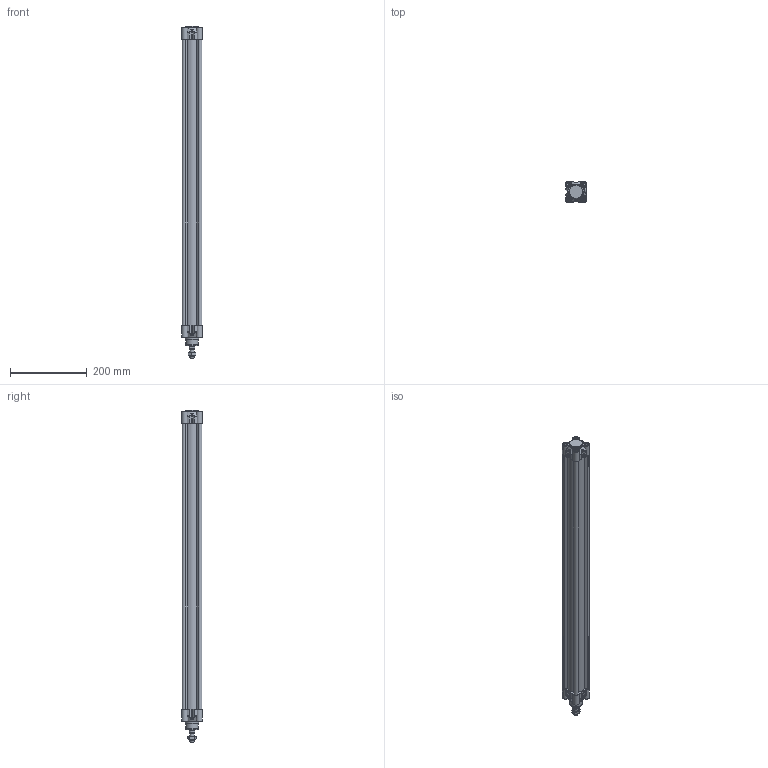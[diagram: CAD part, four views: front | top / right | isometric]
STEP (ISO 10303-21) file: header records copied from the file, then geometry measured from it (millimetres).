
FILE_DESCRIPTION(/* description */ ('Unknown'),/* implementation_level */ '2;1');
FILE_NAME(/* name */ 'HIF 40_700',/* time_stamp */ '2024-08-12T07:51:38+02:00',/* author */ ('Unknown'),/* organization */ ('Unknown'),/* preprocessor_version */ 'ST-DEVELOPER v16.7',/* originating_system */ 'Solid Edge',/* authorisation */ 'Unknown');
FILE_SCHEMA (('AUTOMOTIVE_DESIGN {1 0 10303 214 3 1 1}'));
Length unit declared in the file: millimetre
Products named in the file (6): HIF 40_700; Kit_2; Kit_1; Profilrohr 40_700; Mutter; Kolbenstange 40_700
Assembly tree (5 placements, depth 2):
  HIF 40_700
    Kit_2
    Kit_1
    Profilrohr 40_700
    Mutter
    Kolbenstange 40_700
Bounding box: 54.5 x 54.5 x 863 mm (x, y, z)
Volume: 823267.6 mm3; surface area: 492726.6 mm2
Topology: 5 solids, 10 shells, 922 faces, 2342 edges, 1525 vertices
Faces by surface type: plane 367, cylinder 300, cone 89, torus 74, bspline 74, sphere 18
Full cylindrical faces by diameter (mm): 2.5 x2, 4.917 x16, 6 x8, 6.2 x8, 7 x2, 9.9 x2, 10 x13, 10.3 x8, 10.647 x1, 11.44 x2, 11.445 x2, 12 x1, 15.5 x1, 16 x2, 16.6 x1, 16.8 x1, 16.847 x1, 20 x1, 26 x2, 33 x1, 35 x2, 40 x2
Entity records: 35939 total; most frequent: CARTESIAN_POINT 8998, ORIENTED_EDGE 4544, DIRECTION 4322, EDGE_CURVE 2272, AXIS2_PLACEMENT_3D 1647, VERTEX_POINT 1507, FACE_BOUND 1081, EDGE_LOOP 1073
